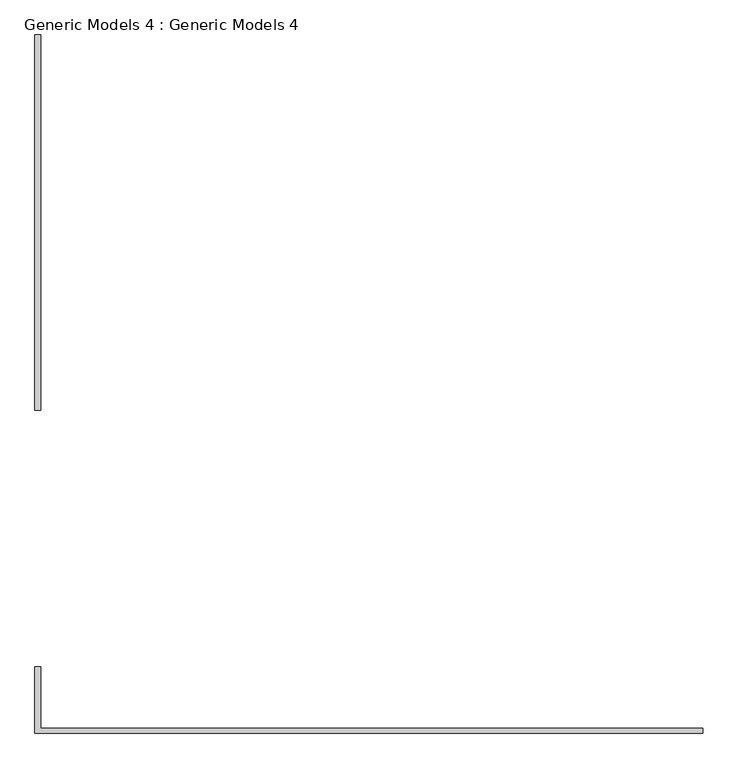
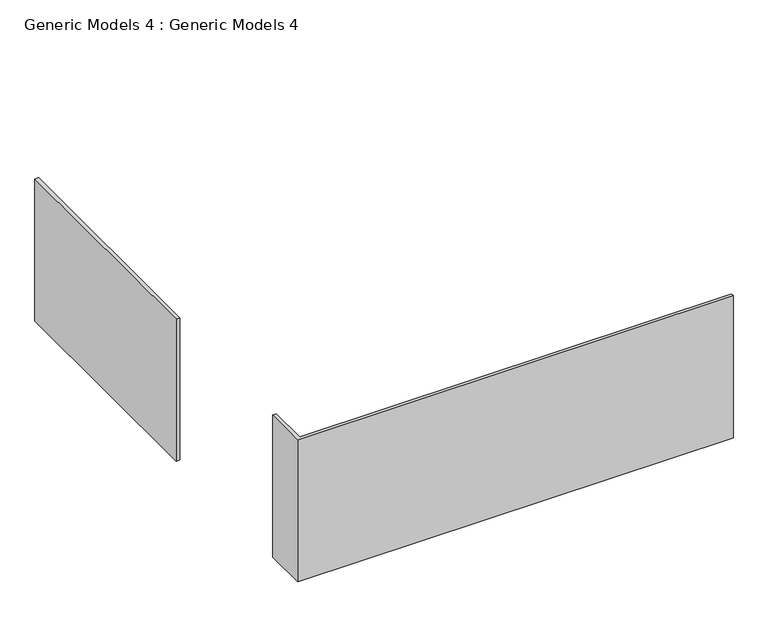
"""IFC4 building model written with IfcOpenShell, lengths in millimetres: proxy geometry, Generic Models 4 : Generic Models 4."""

from ifc_helpers import new_model, si_unit, origin, origin_with_axes, place, context, project, spatial, polyline, outline, extrude, source, transform, mapped, element, save


def generic_models_4_generic_models_4_5c48e4ab(model_context):
    return source(origin(), model_context, "Body", "SweptSolid", [
        extrude(outline(polyline([(11269.5756115, 12078.2664981), (11289.5756115, 12078.2664981), (11289.5756115, 10778.0664981), (11269.5756115, 10778.0664981), (11269.5756115, 12078.2664981)])), origin_with_axes(), (0.0, 0.0, 1.0), 800.0),
        extrude(outline(polyline([(11289.5756115, 9888.0664981), (11289.5756115, 9674.6664981), (13586.3756115, 9674.6664981), (13586.3756115, 9658.6664981), (11269.5756115, 9658.6664981), (11269.5756115, 9888.0664981), (11289.5756115, 9888.0664981)])), origin_with_axes(), (0.0, 0.0, 1.0), 800.0),
    ])


if __name__ == "__main__":
    model = new_model("IFC4")
    model_context = context("Model", 3, world=origin())
    ifc_project = project(units=[si_unit("LENGTHUNIT", "METRE", prefix="MILLI")], contexts=[model_context])
    site = spatial("IfcSite", under=ifc_project)
    building = spatial("IfcBuilding", under=site)
    placement = place(None, origin())
    generic_models_4_generic_models_4_shape = generic_models_4_generic_models_4_5c48e4ab(model_context)
    element("IfcBuildingElementProxy", 1, Name="Generic Models 4 : Generic Models 4", ObjectType="Generic Models 4 : Generic Models 4", at=placement, inside=building, context=model_context, shape_type="MappedRepresentation", body=[
        mapped(generic_models_4_generic_models_4_shape, transform((0.0, 0.0, 0.0), x_axis=(1.0, 0.0, 0.0), y_axis=(0.0, 1.0, 0.0), z_axis=(0.0, 0.0, 1.0))),
    ])
    save(model, "model.ifc")
